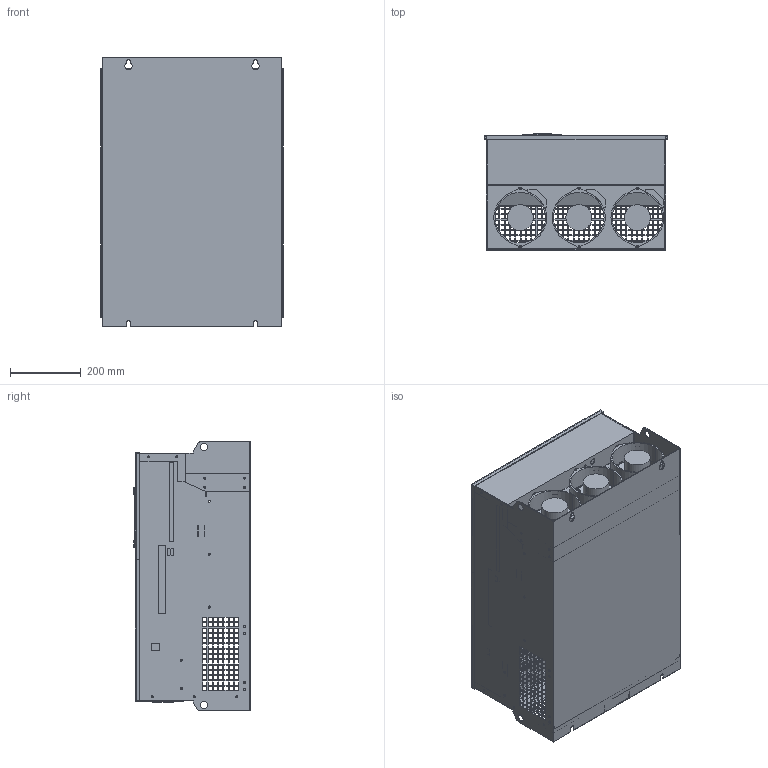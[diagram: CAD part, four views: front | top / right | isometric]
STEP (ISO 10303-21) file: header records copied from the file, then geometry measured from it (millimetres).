
FILE_DESCRIPTION((''),'2;1');
FILE_NAME('00-C7NS01_ASM_ASM','2024-05-23T',('Lenovo'),(''),'CREO PARAMETRIC BY PTC INC, 2016130','CREO PARAMETRIC BY PTC INC, 2016130','');
FILE_SCHEMA(('CONFIG_CONTROL_DESIGN'));
Products named in the file (25): C7NS01-0301_1; C7K01-X304_1; C7P03-X308_1; C7P03-X315_1; C7K04-X307-S_1; C7K04-X303-S_1; C7K16-0316_1; C7K16-0314_1; C7K16-0315_1; C7K16-0315-220105_1; MZJ-S-M5-ZC_1; C7NS01-0317_ASM_1_ASM; C6Q00-0312-G01_2_1; C7NS01-03-00_ASM_1_ASM; JIEXIANDUANZI_1; BRACKET_ASM_1_1; BRACKET_ASM_1_2; BRACKET_ASM_1_ASM; X8021X1-_1; 5E_230B_1_1; 5E_230B_1_2; 5E_230B_1_ASM; ELECTRICAL_ASSY_ASM_1_ASM; 00-C7NS01_ASM_1_ASM; 00-C7NS01_ASM_ASM
Assembly tree (38 placements, depth 5):
  00-C7NS01_ASM_ASM
    00-C7NS01_ASM_1_ASM
      C7NS01-03-00_ASM_1_ASM
        C7NS01-0301_1
        C7K01-X304_1
        C7P03-X308_1
        C7P03-X315_1
        C7K04-X307-S_1
        C7K04-X303-S_1
        C7K16-0316_1
        C7K16-0314_1
        C7K16-0315_1
        C7K16-0315-220105_1
        C7NS01-0317_ASM_1_ASM
          MZJ-S-M5-ZC_1  x4
        C6Q00-0312-G01_2_1
      ELECTRICAL_ASSY_ASM_1_ASM
        JIEXIANDUANZI_1  x8
        BRACKET_ASM_1_ASM
          BRACKET_ASM_1_1
          BRACKET_ASM_1_2
        X8021X1-_1  x3
        5E_230B_1_ASM  x3
          5E_230B_1_1
          5E_230B_1_2
Bounding box: 516 x 330.99 x 765 mm (x, y, z)
Volume: 5303807.9 mm3; surface area: 4362323.3 mm2
Topology: 33 solids, 33 shells, 6005 faces, 16847 edges, 11250 vertices
Faces by surface type: plane 4770, cylinder 956, cone 143, bspline 66, torus 46, sphere 24
Entity records: 148212 total; most frequent: CARTESIAN_POINT 30248, ORIENTED_EDGE 24828, DIRECTION 22892, EDGE_CURVE 12414, VECTOR 10114, LINE 10114, VERTEX_POINT 8302, AXIS2_PLACEMENT_3D 6389
